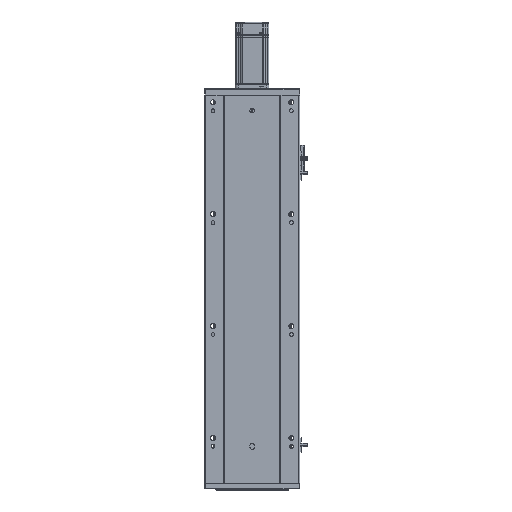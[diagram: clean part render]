
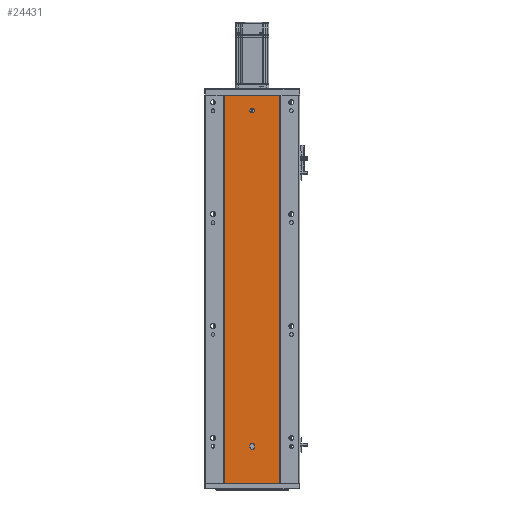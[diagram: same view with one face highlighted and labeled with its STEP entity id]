
A CAD part, front view. The second image highlights one B-rep face of the part: STEP entity #24431.
In plain terms, the highlighted planar face has unit normal (0, -1, 0).
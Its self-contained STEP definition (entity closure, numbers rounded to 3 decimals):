
#246 = CIRCLE ( 'NONE', #58158, 4. ) ;
#1035 = EDGE_LOOP ( 'NONE', ( #43364, #4506 ) ) ;
#1353 = VECTOR ( 'NONE', #61205, 1000. ) ;
#1394 = ORIENTED_EDGE ( 'NONE', *, *, #34935, .F. ) ;
#2848 = CARTESIAN_POINT ( 'NONE',  ( 86.97, 79.476, 694. ) ) ;
#3496 = FACE_BOUND ( 'NONE', #6112, .T. ) ;
#4506 = ORIENTED_EDGE ( 'NONE', *, *, #50187, .F. ) ;
#4543 = DIRECTION ( 'NONE',  ( 0., 0., -1. ) ) ;
#4648 = EDGE_LOOP ( 'NONE', ( #19316, #16525, #1394, #64714 ) ) ;
#4809 = CARTESIAN_POINT ( 'NONE',  ( 86.97, 79.476, 694. ) ) ;
#4874 = DIRECTION ( 'NONE',  ( 0., 0., -1. ) ) ;
#5432 = VECTOR ( 'NONE', #19032, 1000. ) ;
#5530 = CARTESIAN_POINT ( 'NONE',  ( 132.47, 79.476, 67.5 ) ) ;
#5539 = CIRCLE ( 'NONE', #50566, 4. ) ;
#6112 = EDGE_LOOP ( 'NONE', ( #21997, #16242, #34887, #48568, #45987 ) ) ;
#6716 = CARTESIAN_POINT ( 'NONE',  ( 136.47, 79.476, 60.5 ) ) ;
#8000 = VERTEX_POINT ( 'NONE', #13378 ) ;
#8503 = AXIS2_PLACEMENT_3D ( 'NONE', #46052, #20723, #55803 ) ;
#8526 = LINE ( 'NONE', #57326, #36898 ) ;
#10757 = AXIS2_PLACEMENT_3D ( 'NONE', #49545, #19346, #4543 ) ;
#11246 = LINE ( 'NONE', #46686, #56250 ) ;
#11460 = FACE_BOUND ( 'NONE', #1035, .T. ) ;
#11537 = CARTESIAN_POINT ( 'NONE',  ( 136.47, 79.476, 64.5 ) ) ;
#13378 = CARTESIAN_POINT ( 'NONE',  ( 136.47, 79.476, 662. ) ) ;
#13567 = VERTEX_POINT ( 'NONE', #38978 ) ;
#13972 = DIRECTION ( 'NONE',  ( 0., -1., 0. ) ) ;
#14983 = EDGE_CURVE ( 'NONE', #8000, #55717, #5539, .T. ) ;
#15397 = CARTESIAN_POINT ( 'NONE',  ( 136.47, 79.476, 670. ) ) ;
#16242 = ORIENTED_EDGE ( 'NONE', *, *, #50929, .F. ) ;
#16525 = ORIENTED_EDGE ( 'NONE', *, *, #34469, .F. ) ;
#16690 = EDGE_CURVE ( 'NONE', #46356, #53765, #62984, .T. ) ;
#17811 = DIRECTION ( 'NONE',  ( 0., 0., 1. ) ) ;
#17832 = DIRECTION ( 'NONE',  ( 0., -1., 0. ) ) ;
#19032 = DIRECTION ( 'NONE',  ( 0., 0., 1. ) ) ;
#19316 = ORIENTED_EDGE ( 'NONE', *, *, #50431, .T. ) ;
#19346 = DIRECTION ( 'NONE',  ( 0., -1., 0. ) ) ;
#19416 = CARTESIAN_POINT ( 'NONE',  ( 132.47, 79.476, 64.5 ) ) ;
#20590 = CARTESIAN_POINT ( 'NONE',  ( 140.47, 79.476, 64.5 ) ) ;
#20723 = DIRECTION ( 'NONE',  ( 0., -1., 0. ) ) ;
#21141 = CARTESIAN_POINT ( 'NONE',  ( 86.97, 79.476, 0. ) ) ;
#21997 = ORIENTED_EDGE ( 'NONE', *, *, #60134, .F. ) ;
#22634 = DIRECTION ( 'NONE',  ( 0., 1., 0. ) ) ;
#22664 = CARTESIAN_POINT ( 'NONE',  ( 136.47, 79.476, 67.5 ) ) ;
#23871 = AXIS2_PLACEMENT_3D ( 'NONE', #28079, #22634, #17811 ) ;
#24153 = B_SPLINE_CURVE_WITH_KNOTS ( 'NONE', 3,
 ( #4809, #35841, #51797, #21141 ),
 .UNSPECIFIED., .F., .F.,
 ( 4, 4 ),
 ( 0., 1. ),
 .UNSPECIFIED. ) ;
#24431 = ADVANCED_FACE ( 'NONE', ( #3496, #11460, #43723 ), #48195, .F. ) ;
#24868 = CARTESIAN_POINT ( 'NONE',  ( 185.97, 79.476, 0. ) ) ;
#26581 = VERTEX_POINT ( 'NONE', #6716 ) ;
#26879 = VERTEX_POINT ( 'NONE', #61561 ) ;
#27730 = CARTESIAN_POINT ( 'NONE',  ( 185.97, 79.476, 231.333 ) ) ;
#28079 = CARTESIAN_POINT ( 'NONE',  ( 0., 79.476, 694. ) ) ;
#29496 = CARTESIAN_POINT ( 'NONE',  ( 140.47, 79.476, 67.5 ) ) ;
#31256 = VERTEX_POINT ( 'NONE', #5530 ) ;
#31739 = VERTEX_POINT ( 'NONE', #24868 ) ;
#34469 = EDGE_CURVE ( 'NONE', #26879, #31739, #60119, .T. ) ;
#34667 = VERTEX_POINT ( 'NONE', #2848 ) ;
#34866 = EDGE_CURVE ( 'NONE', #34667, #13567, #24153, .T. ) ;
#34887 = ORIENTED_EDGE ( 'NONE', *, *, #50521, .F. ) ;
#34935 = EDGE_CURVE ( 'NONE', #34667, #26879, #11246, .T. ) ;
#35841 = CARTESIAN_POINT ( 'NONE',  ( 86.97, 79.476, 462.667 ) ) ;
#36898 = VECTOR ( 'NONE', #62368, 1000. ) ;
#37446 = CARTESIAN_POINT ( 'NONE',  ( 185.97, 79.476, 0. ) ) ;
#38819 = DIRECTION ( 'NONE',  ( 0., 0., -1. ) ) ;
#38978 = CARTESIAN_POINT ( 'NONE',  ( 86.97, 79.476, 0. ) ) ;
#42327 = CARTESIAN_POINT ( 'NONE',  ( 185.97, 79.476, 694. ) ) ;
#43364 = ORIENTED_EDGE ( 'NONE', *, *, #14983, .F. ) ;
#43723 = FACE_OUTER_BOUND ( 'NONE', #4648, .T. ) ;
#44149 = CARTESIAN_POINT ( 'NONE',  ( 136.47, 79.476, 666. ) ) ;
#45977 = CARTESIAN_POINT ( 'NONE',  ( 132.47, 79.476, 67.5 ) ) ;
#45987 = ORIENTED_EDGE ( 'NONE', *, *, #53435, .F. ) ;
#46052 = CARTESIAN_POINT ( 'NONE',  ( 136.47, 79.476, 666. ) ) ;
#46356 = VERTEX_POINT ( 'NONE', #20590 ) ;
#46461 = DIRECTION ( 'NONE',  ( 1., 0., 0. ) ) ;
#46686 = CARTESIAN_POINT ( 'NONE',  ( 0., 79.476, 694. ) ) ;
#47932 = CIRCLE ( 'NONE', #8503, 4. ) ;
#48195 = PLANE ( 'NONE',  #23871 ) ;
#48568 = ORIENTED_EDGE ( 'NONE', *, *, #16690, .F. ) ;
#49545 = CARTESIAN_POINT ( 'NONE',  ( 136.47, 79.476, 64.5 ) ) ;
#50187 = EDGE_CURVE ( 'NONE', #55717, #8000, #47932, .T. ) ;
#50431 = EDGE_CURVE ( 'NONE', #13567, #31739, #8526, .T. ) ;
#50521 = EDGE_CURVE ( 'NONE', #53765, #31256, #64491, .T. ) ;
#50566 = AXIS2_PLACEMENT_3D ( 'NONE', #44149, #13972, #38819 ) ;
#50929 = EDGE_CURVE ( 'NONE', #31256, #57703, #60470, .T. ) ;
#51797 = CARTESIAN_POINT ( 'NONE',  ( 86.97, 79.476, 231.333 ) ) ;
#52767 = CIRCLE ( 'NONE', #10757, 4. ) ;
#53105 = DIRECTION ( 'NONE',  ( 0., 0., -1. ) ) ;
#53435 = EDGE_CURVE ( 'NONE', #26581, #46356, #246, .T. ) ;
#53765 = VERTEX_POINT ( 'NONE', #29496 ) ;
#54981 = AXIS2_PLACEMENT_3D ( 'NONE', #22664, #17832, #53105 ) ;
#55409 = DIRECTION ( 'NONE',  ( 0., -1., 0. ) ) ;
#55717 = VERTEX_POINT ( 'NONE', #15397 ) ;
#55803 = DIRECTION ( 'NONE',  ( 0., 0., -1. ) ) ;
#56250 = VECTOR ( 'NONE', #46461, 1000. ) ;
#57174 = CARTESIAN_POINT ( 'NONE',  ( 185.97, 79.476, 462.667 ) ) ;
#57326 = CARTESIAN_POINT ( 'NONE',  ( 0., 79.476, 0. ) ) ;
#57703 = VERTEX_POINT ( 'NONE', #19416 ) ;
#58158 = AXIS2_PLACEMENT_3D ( 'NONE', #11537, #55409, #4874 ) ;
#59798 = CARTESIAN_POINT ( 'NONE',  ( 140.47, 79.476, 67.5 ) ) ;
#60119 = B_SPLINE_CURVE_WITH_KNOTS ( 'NONE', 3,
 ( #42327, #57174, #27730, #37446 ),
 .UNSPECIFIED., .F., .F.,
 ( 4, 4 ),
 ( 0., 1. ),
 .UNSPECIFIED. ) ;
#60134 = EDGE_CURVE ( 'NONE', #57703, #26581, #52767, .T. ) ;
#60470 = LINE ( 'NONE', #45977, #1353 ) ;
#61205 = DIRECTION ( 'NONE',  ( 0., 0., -1. ) ) ;
#61561 = CARTESIAN_POINT ( 'NONE',  ( 185.97, 79.476, 694. ) ) ;
#62368 = DIRECTION ( 'NONE',  ( 1., 0., 0. ) ) ;
#62984 = LINE ( 'NONE', #59798, #5432 ) ;
#64491 = CIRCLE ( 'NONE', #54981, 4. ) ;
#64714 = ORIENTED_EDGE ( 'NONE', *, *, #34866, .T. ) ;
